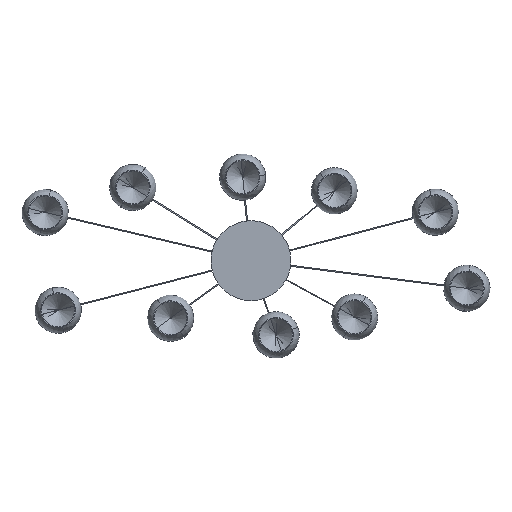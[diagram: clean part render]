
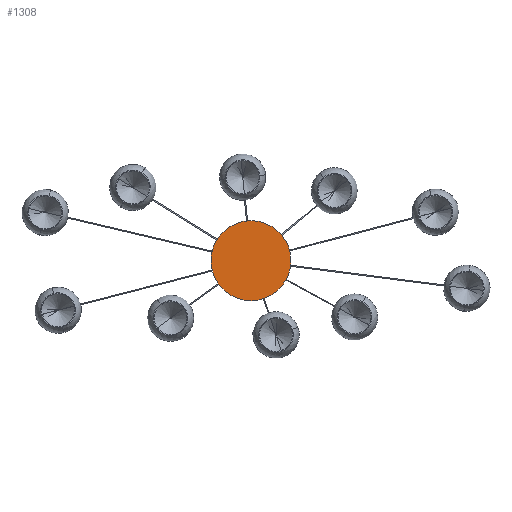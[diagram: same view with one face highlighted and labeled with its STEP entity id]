
A CAD part, front view. The second image highlights one B-rep face of the part: STEP entity #1308.
In plain terms, the highlighted planar face has unit normal (0, -1, 0).
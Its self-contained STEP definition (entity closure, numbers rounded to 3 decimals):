
#226 = VERTEX_POINT ( 'NONE', #6499 ) ;
#494 = ORIENTED_EDGE ( 'NONE', *, *, #4516, .T. ) ;
#615 = DIRECTION ( 'NONE',  ( 0., -1., 0. ) ) ;
#1198 = DIRECTION ( 'NONE',  ( 0., 0., -1. ) ) ;
#1308 = ADVANCED_FACE ( 'NONE', ( #4149 ), #3642, .T. ) ;
#2371 = CARTESIAN_POINT ( 'NONE',  ( 0., -17., 0. ) ) ;
#2458 = VERTEX_POINT ( 'NONE', #7530 ) ;
#2506 = EDGE_CURVE ( 'NONE', #2458, #226, #2763, .T. ) ;
#2521 = AXIS2_PLACEMENT_3D ( 'NONE', #6550, #615, #5517 ) ;
#2763 = CIRCLE ( 'NONE', #6811, 155. ) ;
#2764 = EDGE_LOOP ( 'NONE', ( #7204, #494 ) ) ;
#3146 = DIRECTION ( 'NONE',  ( 0., -1., 0. ) ) ;
#3374 = AXIS2_PLACEMENT_3D ( 'NONE', #4650, #3146, #1198 ) ;
#3642 = PLANE ( 'NONE',  #2521 ) ;
#4149 = FACE_OUTER_BOUND ( 'NONE', #2764, .T. ) ;
#4516 = EDGE_CURVE ( 'NONE', #226, #2458, #7425, .T. ) ;
#4650 = CARTESIAN_POINT ( 'NONE',  ( 0., -17., 0. ) ) ;
#4786 = DIRECTION ( 'NONE',  ( 0., 0., -1. ) ) ;
#5517 = DIRECTION ( 'NONE',  ( 0., 0., -1. ) ) ;
#6499 = CARTESIAN_POINT ( 'NONE',  ( 0., -17., 155. ) ) ;
#6550 = CARTESIAN_POINT ( 'NONE',  ( 155., -17., 0. ) ) ;
#6811 = AXIS2_PLACEMENT_3D ( 'NONE', #2371, #7712, #4786 ) ;
#7204 = ORIENTED_EDGE ( 'NONE', *, *, #2506, .T. ) ;
#7425 = CIRCLE ( 'NONE', #3374, 155. ) ;
#7530 = CARTESIAN_POINT ( 'NONE',  ( 0., -17., -155. ) ) ;
#7712 = DIRECTION ( 'NONE',  ( 0., -1., 0. ) ) ;
